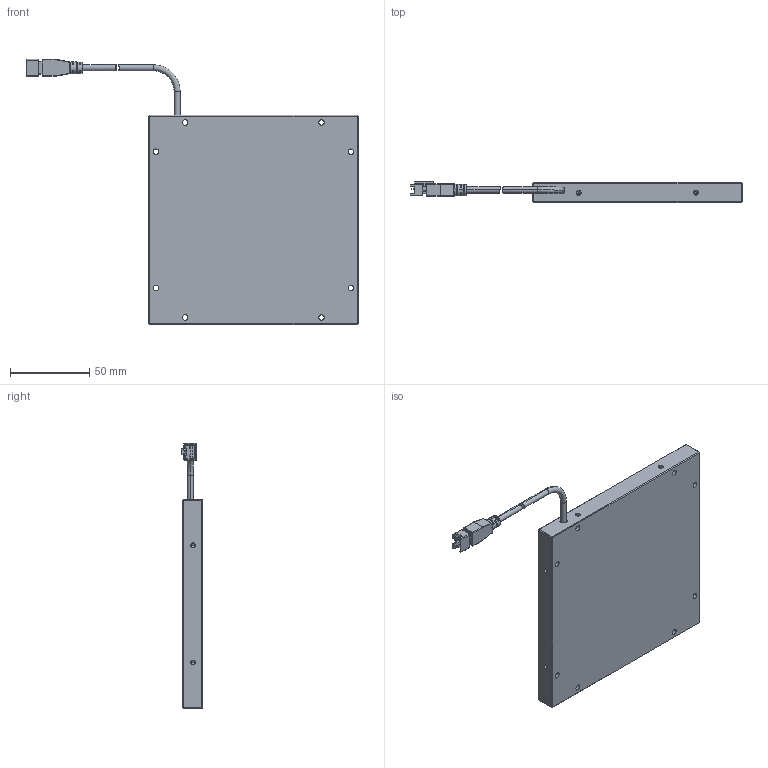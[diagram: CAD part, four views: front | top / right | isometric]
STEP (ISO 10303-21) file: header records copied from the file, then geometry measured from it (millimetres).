
FILE_DESCRIPTION((''),'2;1');
FILE_NAME('MV-LBFH-100-100_ASM','2019-09-19T',('Administrator'),(''),'PRO/ENGINEER BY PARAMETRIC TECHNOLOGY CORPORATION, 2010100','PRO/ENGINEER BY PARAMETRIC TECHNOLOGY CORPORATION, 2010100','');
FILE_SCHEMA(('CONFIG_CONTROL_DESIGN'));
Length unit declared in the file: millimetre
Products named in the file (5): ZHOUQUAN1___1; LINE_TOU____1; XIAN____1; ASSY____ASM_1_ASM; MV-LBFH-100-100_ASM
Assembly tree (4 placements, depth 3):
  MV-LBFH-100-100_ASM
    ZHOUQUAN1___1
    ASSY____ASM_1_ASM
      LINE_TOU____1
      XIAN____1
Bounding box: 209.43 x 13.15 x 167.25 mm (x, y, z)
Volume: 205795.6 mm3; surface area: 46627.3 mm2
Topology: 3 solids, 11 shells, 380 faces, 992 edges, 631 vertices
Faces by surface type: plane 178, cylinder 136, cone 39, torus 10, bspline 8, sphere 8, extrusion 1
Entity records: 12058 total; most frequent: CARTESIAN_POINT 2497, DIRECTION 2046, ORIENTED_EDGE 1904, EDGE_CURVE 968, AXIS2_PLACEMENT_3D 745, VERTEX_POINT 631, VECTOR 556, LINE 555
